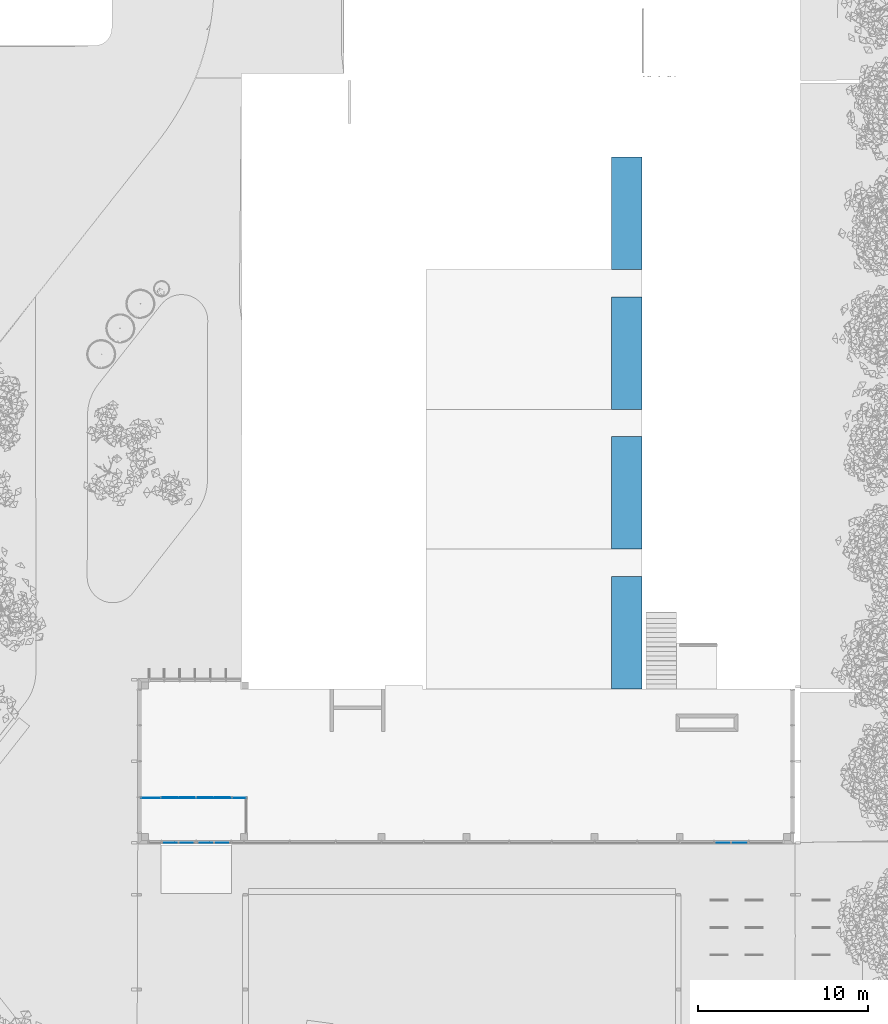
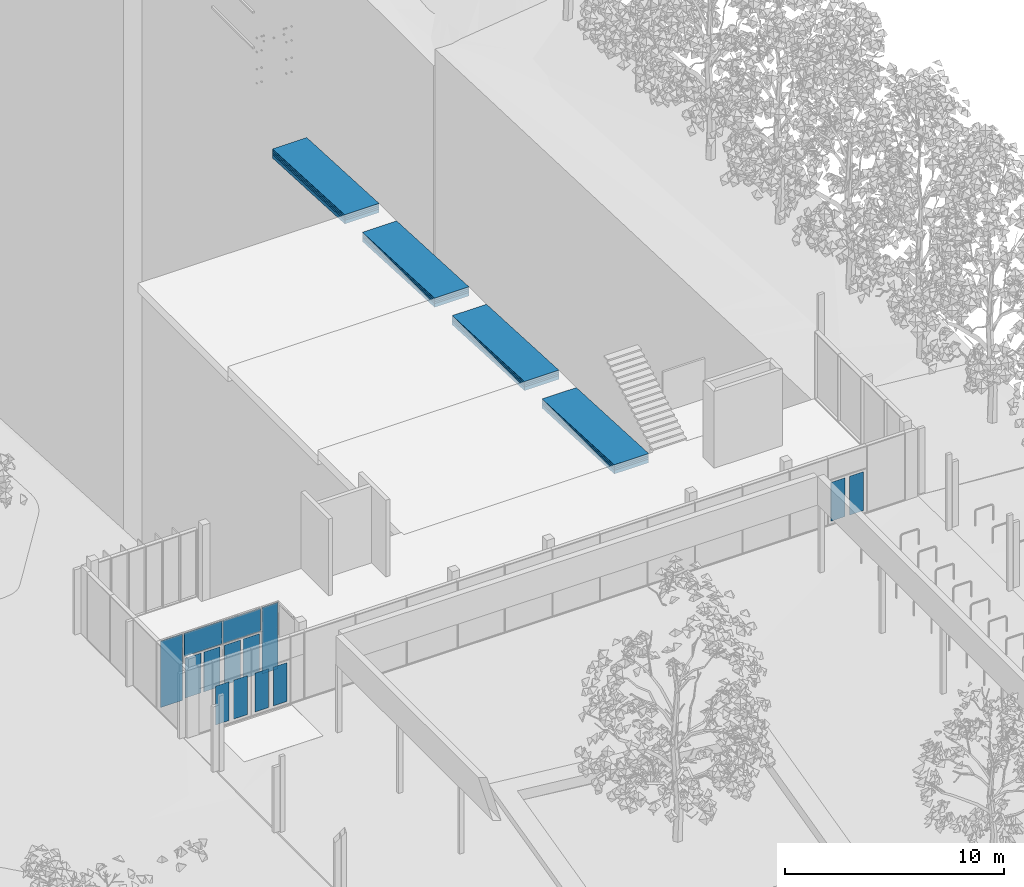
# One storey, part 12 of 69: 33 building element parts, 16 elements without a shape of their own.
"""IFC2X3 building model written with IfcOpenShell, lengths in millimetres."""

import ifcopenshell
import ifcopenshell.guid

model = None  # the IFC model being written
_history = None  # IfcOwnerHistory: only IFC2X3 demands one
_inside = {}  # id of a spatial element -> (the spatial element, [elements in it])
_under = {}  # id of a project, library or spatial element -> (it, [spatial elements below it])
_declared = {}  # id of a project -> (the project, [libraries it declares])
_typed = {}  # id of a type object -> (the type object, [elements of that type])
_made_of = {}  # id of a material, layer set ... -> (it, [elements and type objects made of it])


def new_model(schema):
    """Start an empty IFC model of exactly this schema.

    Asked for "IFC4X3", IfcOpenShell would pick the latest addendum, in which some entities
    have other attributes; the version numbers below select the first issue.
    IFC2X3 requires an IfcOwnerHistory on every rooted entity: one is made here for all.
    """
    global model, _history
    if schema == "IFC4X3":
        model = ifcopenshell.file(schema_version=(4, 3, 0, 0))
    else:
        model = ifcopenshell.file(schema=schema)
    _inside.clear()
    _under.clear()
    _declared.clear()
    _typed.clear()
    _made_of.clear()
    _history = None
    if model.schema == "IFC2X3":
        org = make("IfcOrganization", Name="unknown")
        user = make(
            "IfcPersonAndOrganization",
            ThePerson=make("IfcPerson", FamilyName="unknown"),
            TheOrganization=org,
        )
        app = make(
            "IfcApplication",
            ApplicationDeveloper=org,
            Version="unknown",
            ApplicationFullName="unknown",
            ApplicationIdentifier="unknown",
        )
        _history = make(
            "IfcOwnerHistory",
            OwningUser=user,
            OwningApplication=app,
            ChangeAction="ADDED",
            CreationDate=0,
        )
    return model


def make(cls, **values):
    """One entity of the class cls with the attributes given. An attribute that is None is left unset."""
    return model.create_entity(
        cls, **{name: value for name, value in values.items() if value is not None}
    )


def entity(cls, *values):
    """Any entity or typed value of the class cls, its attributes in the order of the schema. None: left unset."""
    e = model.create_entity(cls)
    for i, value in enumerate(values):
        if value is not None:
            e[i] = value
    return e


def rooted(cls, **values):
    """An entity with a GlobalId (a new one), such as an element, a storey or a relation."""
    return make(cls, GlobalId=ifcopenshell.guid.new(), OwnerHistory=_history, **values)


def si_unit(unit_type, name, prefix=None):
    """IfcSIUnit, for example si_unit("LENGTHUNIT", "METRE", prefix="MILLI")."""
    return make("IfcSIUnit", UnitType=unit_type, Prefix=prefix, Name=name)


def converted_unit(unit_type, name, factor, base, dimensions=None, offset=None):
    """IfcConversionBasedUnit, such as the inch: factor (a typed value) times the base unit."""
    return make(
        "IfcConversionBasedUnit"
        if offset is None
        else "IfcConversionBasedUnitWithOffset",
        ConversionOffset=offset,
        Dimensions=None
        if dimensions is None
        else entity("IfcDimensionalExponents", *dimensions),
        UnitType=unit_type,
        Name=name,
        ConversionFactor=make(
            "IfcMeasureWithUnit", ValueComponent=factor, UnitComponent=base
        ),
    )


def derived_unit(unit_type, elements):
    """IfcDerivedUnit: a product of units, each with its exponent."""
    return make(
        "IfcDerivedUnit",
        Elements=[
            make("IfcDerivedUnitElement", Unit=unit, Exponent=power)
            for unit, power in elements
        ],
        UnitType=unit_type,
    )


def money_unit(currency):
    """IfcMonetaryUnit."""
    return make("IfcMonetaryUnit", Currency=currency)


def assignment(units):
    """IfcUnitAssignment: the units of a project."""
    return None if units is None else make("IfcUnitAssignment", Units=units)


def point(xyz):
    """IfcCartesianPoint."""
    return None if xyz is None else make("IfcCartesianPoint", Coordinates=xyz)


def direction(xyz):
    """IfcDirection."""
    return None if xyz is None else make("IfcDirection", DirectionRatios=xyz)


def frame(location, z_axis=None, x_axis=None):
    """IfcAxis2Placement3D, a coordinate frame: its origin and axes. An axis left out is left unset."""
    return make(
        "IfcAxis2Placement3D",
        Location=point(location),
        Axis=direction(z_axis),
        RefDirection=direction(x_axis),
    )


def origin_with_axes():
    """The frame at (0, 0, 0) with the z axis (0, 0, 1) and the x axis (1, 0, 0) written out."""
    return frame((0.0, 0.0, 0.0), z_axis=(0.0, 0.0, 1.0), x_axis=(1.0, 0.0, 0.0))


def place(relative_to, where):
    """IfcLocalPlacement: puts the frame where relative to a parent placement (None: the world)."""
    return make(
        "IfcLocalPlacement", PlacementRelTo=relative_to, RelativePlacement=where
    )


def context(
    kind, dimensions, precision=None, world=None, true_north=None, identifier=None
):
    """IfcGeometricRepresentationContext, for example the 3D "Model" context."""
    return make(
        "IfcGeometricRepresentationContext",
        ContextIdentifier=identifier,
        ContextType=kind,
        CoordinateSpaceDimension=dimensions,
        Precision=precision,
        WorldCoordinateSystem=world,
        TrueNorth=true_north,
    )


def subcontext(parent, identifier, kind, view, scale=None):
    """IfcGeometricRepresentationSubContext, for example "Body" below "Model"."""
    return make(
        "IfcGeometricRepresentationSubContext",
        ContextIdentifier=identifier,
        ContextType=kind,
        ParentContext=parent,
        TargetScale=scale,
        TargetView=view,
    )


def project(units=None, contexts=None):
    """IfcProject with its units and contexts."""
    return rooted(
        "IfcProject",
        Name="project",
        RepresentationContexts=contexts,
        UnitsInContext=assignment(units),
    )


def spatial(cls, under=None, at=None, **own):
    """A site, building, storey or space (cls), placed at a placement, below another one or the project."""
    s = rooted(cls, ObjectPlacement=at, **own)
    if under is not None:
        _under.setdefault(under.id(), (under, []))[1].append(s)
    return s


def polyline(points):
    """IfcPolyline through the points."""
    return make("IfcPolyline", Points=[point(p) for p in points])


def outline(outer, holes=None, kind="AREA"):
    """IfcArbitraryClosedProfileDef: a profile drawn as a closed curve; with holes, ...WithVoids."""
    if holes is None:
        return make("IfcArbitraryClosedProfileDef", ProfileType=kind, OuterCurve=outer)
    return make(
        "IfcArbitraryProfileDefWithVoids",
        ProfileType=kind,
        OuterCurve=outer,
        InnerCurves=holes,
    )


def extrude(swept, where, along, depth):
    """IfcExtrudedAreaSolid: the profile swept, set in the frame where, extruded along a direction by depth."""
    return make(
        "IfcExtrudedAreaSolid",
        SweptArea=swept,
        Position=where,
        ExtrudedDirection=direction(along),
        Depth=depth,
    )


def faces_of(points, faces, orient=None, outer=None):
    """IfcFace entities. A face is a list of loops; a loop is a list of indices into points, from 0.

    orient and outer hold one flag for each loop. By default every Orientation is true, the
    first loop of a face is its IfcFaceOuterBound and the others are IfcFaceBound.
    """
    made = []
    for i, loops in enumerate(faces):
        bounds = []
        for j, loop in enumerate(loops):
            is_outer = j == 0 if outer is None else outer[i][j]
            bounds.append(
                make(
                    "IfcFaceOuterBound" if is_outer else "IfcFaceBound",
                    Bound=make("IfcPolyLoop", Polygon=[points[k] for k in loop]),
                    Orientation=True if orient is None else orient[i][j],
                )
            )
        made.append(make("IfcFace", Bounds=bounds))
    return made


def faceted_brep(points, faces, orient=None, outer=None, voids=None):
    """IfcFacetedBrep: a solid bounded by flat faces; with voids (closed shells), ...WithVoids."""
    shared = [point(p) for p in points]
    hull = make("IfcClosedShell", CfsFaces=faces_of(shared, faces, orient, outer))
    if voids is None:
        return make("IfcFacetedBrep", Outer=hull)
    return make(
        "IfcFacetedBrepWithVoids",
        Outer=hull,
        Voids=[
            make(cls, CfsFaces=faces_of(shared, fs, o, b)) for cls, fs, o, b in voids
        ],
    )


def shape(context_of_items, identifier, shape_type, items):
    """IfcShapeRepresentation: the items that make up one representation, for example the "Body"."""
    return make(
        "IfcShapeRepresentation",
        ContextOfItems=context_of_items,
        RepresentationIdentifier=identifier,
        RepresentationType=shape_type,
        Items=items,
    )


def material(Name=None, Category=None):
    """IfcMaterial."""
    return make("IfcMaterial", Name=Name, Category=Category)


def made_of(thing, what):
    """Note that an element or type object is made of a material, layer set ...; save() writes the relation."""
    if what is not None:
        _made_of.setdefault(what.id(), (what, []))[1].append(thing)
    return thing


def type_object(cls, material=None, **own):
    """A type object (cls), such as IfcWallType, which elements share."""
    return made_of(rooted(cls, **own), material)


def element(
    cls,
    number,
    at=None,
    inside=None,
    cuts=None,
    type_object=None,
    material=None,
    context=None,
    identifier="Body",
    shape_type=None,
    held_by="IfcProductDefinitionShape",
    body=None,
    shapes=None,
    **own,
):
    """One element of the class cls, such as IfcWall. Its Tag is "e" and its number.

    at: its placement. inside: the storey or other place that contains it. cuts: it is an
    opening in that element (IfcRelVoidsElement). A single representation is given by context,
    identifier, shape_type and body (its items); several are given by shapes. held_by: the class
    of the entity that holds the representations. save() writes the other relations.
    """
    e = rooted(cls, Tag="e%d" % number, ObjectPlacement=at, **own)
    if body is not None:
        shapes = [shape(context, identifier, shape_type, body)]
    if shapes is not None:
        e.Representation = make(held_by, Representations=shapes)
    if inside is not None:
        _inside.setdefault(inside.id(), (inside, []))[1].append(e)
    if cuts is not None:
        rooted(
            "IfcRelVoidsElement", RelatingBuildingElement=cuts, RelatedOpeningElement=e
        )
    if type_object is not None:
        _typed.setdefault(type_object.id(), (type_object, []))[1].append(e)
    return made_of(e, material)


def aggregate(whole, parts):
    """IfcRelAggregates: a whole, such as a stair, and the parts it consists of."""
    return rooted("IfcRelAggregates", RelatingObject=whole, RelatedObjects=parts)


def save(model, path):
    """Write the relations noted so far, then the file.

    IfcRelAggregates (storeys below a building ...), IfcRelContainedInSpatialStructure (elements
    in a storey), IfcRelDefinesByType, IfcRelAssociatesMaterial and IfcRelDeclares: one each for
    every whole, place, type object, material and project.
    """
    for whole, parts in _under.values():
        aggregate(whole, parts)
    for where, things in _inside.values():
        rooted(
            "IfcRelContainedInSpatialStructure",
            RelatedElements=things,
            RelatingStructure=where,
        )
    for kind, things in _typed.values():
        rooted("IfcRelDefinesByType", RelatedObjects=things, RelatingType=kind)
    for what, things in _made_of.values():
        rooted("IfcRelAssociatesMaterial", RelatedObjects=things, RelatingMaterial=what)
    for by, libraries in _declared.values():
        rooted("IfcRelDeclares", RelatingContext=by, RelatedDefinitions=libraries)
    model.write(path)


model = new_model("IFC2X3")

# Units and contexts
model_context = context("Model", 3, precision=0.01, world=origin_with_axes(), true_north=direction((0.0, 1.0)))
body_context = subcontext(model_context, "Body", "Model", "MODEL_VIEW")
ifc_project = project(units=[si_unit("LENGTHUNIT", "METRE", prefix="MILLI"), si_unit("AREAUNIT", "SQUARE_METRE"), si_unit("VOLUMEUNIT", "CUBIC_METRE"), converted_unit("PLANEANGLEUNIT", "DEGREE", entity("IfcPlaneAngleMeasure", 0.0174532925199), si_unit("PLANEANGLEUNIT", "RADIAN"), dimensions=[0, 0, 0, 0, 0, 0, 0]), si_unit("SOLIDANGLEUNIT", "STERADIAN"), money_unit("EUR"), converted_unit("TIMEUNIT", "Year", entity("IfcTimeMeasure", 31556926.0), si_unit("TIMEUNIT", "SECOND"), dimensions=[0, 0, 1, 0, 0, 0, 0]), si_unit("MASSUNIT", "GRAM", prefix="KILO"), si_unit("THERMODYNAMICTEMPERATUREUNIT", "DEGREE_CELSIUS"), si_unit("LUMINOUSINTENSITYUNIT", "LUMEN"), si_unit("ENERGYUNIT", "JOULE", prefix="MEGA"), derived_unit("THERMALCONDUCTANCEUNIT", [(si_unit("POWERUNIT", "WATT"), 1), (si_unit("LENGTHUNIT", "METRE"), -1), (si_unit("THERMODYNAMICTEMPERATUREUNIT", "KELVIN"), -1)]), derived_unit("SPECIFICHEATCAPACITYUNIT", [(si_unit("ENERGYUNIT", "JOULE"), 1), (si_unit("MASSUNIT", "GRAM", prefix="KILO"), -1), (si_unit("THERMODYNAMICTEMPERATUREUNIT", "KELVIN"), -1)]), derived_unit("MASSDENSITYUNIT", [(si_unit("MASSUNIT", "GRAM", prefix="KILO"), 1), (si_unit("VOLUMEUNIT", "CUBIC_METRE"), -1)])], contexts=[model_context])

# Site, building, storey
site_placement = place(None, origin_with_axes())
site = spatial("IfcSite", under=ifc_project, at=site_placement, Name="Puškini 31, Narva", CompositionType="ELEMENT")
building_placement = place(site_placement, origin_with_axes())
building = spatial("IfcBuilding", under=site, at=building_placement, Name="Narva Riigigümnaasium", CompositionType="ELEMENT")
storey_placement = place(building_placement, origin_with_axes())
storey = spatial("IfcBuildingStorey", under=building, at=storey_placement, Name="1.korrus 0.00", CompositionType="ELEMENT", Elevation=0.0)

# Ramp, building element parts
ramp_1_placement = place(storey_placement, frame((43699.9999985, 167199.999936, -840.637102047), z_axis=(0.0, 0.0, 1.0), x_axis=(1.0, 0.0, 0.0)))
ramp_1 = element("IfcRamp", 1, at=ramp_1_placement, inside=storey, Name="Pandus", ShapeType="NOTDEFINED")
ifc_material_1 = material(Name="VKK-03_Kruus")
building_element_part_1_placement = place(ramp_1_placement, origin_with_axes())
building_element_part_1 = element("IfcBuildingElementPart", 2, at=building_element_part_1_placement, material=ifc_material_1, Name="VKK-03_Kruus", context=body_context, shape_type="SweptSolid", body=[
    extrude(outline(polyline([(-10.0, 6608.24491481), (-10.0, 0.0), (1800.00001112, 0.0), (1800.00001112, 6608.24491481), (-10.0, 6608.24491481)])), frame((0.0, 0.0, 0.0), z_axis=(0.0, 0.0499376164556, 0.998752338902), x_axis=(1.0, 0.0, 0.0)), (0.0, -0.0499376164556, 0.998752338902), 200.24984394),
])
ifc_material_2 = material(Name="SOJ-04_Soojustus - Mineraal Kõva")
building_element_part_2_placement = place(ramp_1_placement, origin_with_axes())
building_element_part_2 = element("IfcBuildingElementPart", 3, at=building_element_part_2_placement, material=ifc_material_2, Name="SOJ-04_Soojustus - Mineraal Kõva", context=body_context, shape_type="SweptSolid", body=[
    extrude(outline(polyline([(-10.0, 6608.24491481), (-10.0, 0.0), (1800.00001112, 0.0), (1800.00001112, 6608.24491481), (-10.0, 6608.24491481)])), frame((0.0, 0.0, 200.24984394), z_axis=(0.0, 0.0499376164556, 0.998752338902), x_axis=(1.0, 0.0, 0.0)), (0.0, -0.0499376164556, 0.998752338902), 100.12492197),
])
building_element_part_3_placement = place(ramp_1_placement, origin_with_axes())
building_element_part_3 = element("IfcBuildingElementPart", 4, at=building_element_part_3_placement, material=ifc_material_2, Name="SOJ-04_Soojustus - Mineraal Kõva", context=body_context, shape_type="SweptSolid", body=[
    extrude(outline(polyline([(-10.0, 6608.24491481), (-10.0, 0.0), (1800.00001112, 0.0), (1800.00001112, 6608.24491481), (-10.0, 6608.24491481)])), frame((0.0, 0.0, 300.37476591), z_axis=(0.0, 0.0499376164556, 0.998752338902), x_axis=(1.0, 0.0, 0.0)), (0.0, -0.0499376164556, 0.998752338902), 100.12492197),
])
ifc_material_3 = material(Name="KON-04_Betoon - Konstuktsioon")
building_element_part_4_placement = place(ramp_1_placement, origin_with_axes())
building_element_part_4 = element("IfcBuildingElementPart", 5, at=building_element_part_4_placement, material=ifc_material_3, Name="KON-04_Betoon - Konstuktsioon", context=body_context, shape_type="SweptSolid", body=[
    extrude(outline(polyline([(-10.0, 6608.24491481), (-10.0, 0.0), (1800.00001112, 0.0), (1800.00001112, 6608.24491481), (-10.0, 6608.24491481)])), frame((0.0, 0.0, 400.49968788), z_axis=(0.0, 0.0499376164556, 0.998752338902), x_axis=(1.0, 0.0, 0.0)), (0.0, -0.0499376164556, 0.998752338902), 100.12492197),
])
ifc_material_4 = material(Name="Salto-põrandakate")
building_element_part_5_placement = place(ramp_1_placement, origin_with_axes())
building_element_part_5 = element("IfcBuildingElementPart", 6, at=building_element_part_5_placement, material=ifc_material_4, Name="Salto-põrandakate", context=body_context, shape_type="SweptSolid", body=[
    extrude(outline(polyline([(-10.0, 6608.24491481), (-10.0, 0.0), (1800.00001112, 0.0), (1800.00001112, 6608.24491481), (-10.0, 6608.24491481)])), frame((0.0, 0.0, 500.62460985), z_axis=(0.0, 0.0499376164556, 0.998752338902), x_axis=(1.0, 0.0, 0.0)), (0.0, -0.0499376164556, 0.998752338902), 10.012492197),
])
aggregate(ramp_1, [building_element_part_1, building_element_part_2, building_element_part_3, building_element_part_4, building_element_part_5])

ramp_2_placement = place(storey_placement, frame((43699.9999987, 175400.0, -1170.63710206), z_axis=(0.0, 0.0, 1.0), x_axis=(1.0, 0.0, 0.0)))
ramp_2 = element("IfcRamp", 7, at=ramp_2_placement, inside=storey, Name="Pandus", ShapeType="NOTDEFINED")
building_element_part_6_placement = place(ramp_2_placement, origin_with_axes())
building_element_part_6 = element("IfcBuildingElementPart", 8, at=building_element_part_6_placement, material=ifc_material_1, Name="VKK-03_Kruus", context=body_context, shape_type="SweptSolid", body=[
    extrude(outline(polyline([(1799.99999984, 0.0), (1799.99999984, 6608.24485025), (-10.0, 6608.24485025), (-10.0, 0.0), (1799.99999984, 0.0)])), frame((0.0, 0.0, 0.0), z_axis=(0.0, 0.0499376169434, 0.998752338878), x_axis=(1.0, 0.0, 0.0)), (0.0, -0.0499376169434, 0.998752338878), 200.249843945),
])
building_element_part_7_placement = place(ramp_2_placement, origin_with_axes())
building_element_part_7 = element("IfcBuildingElementPart", 9, at=building_element_part_7_placement, material=ifc_material_2, Name="SOJ-04_Soojustus - Mineraal Kõva", context=body_context, shape_type="SweptSolid", body=[
    extrude(outline(polyline([(1799.99999984, 0.0), (1799.99999984, 6608.24485025), (-10.0, 6608.24485025), (-10.0, 0.0), (1799.99999984, 0.0)])), frame((0.0, 0.0, 200.249843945), z_axis=(0.0, 0.0499376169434, 0.998752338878), x_axis=(1.0, 0.0, 0.0)), (0.0, -0.0499376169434, 0.998752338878), 100.124921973),
])
building_element_part_8_placement = place(ramp_2_placement, origin_with_axes())
building_element_part_8 = element("IfcBuildingElementPart", 10, at=building_element_part_8_placement, material=ifc_material_2, Name="SOJ-04_Soojustus - Mineraal Kõva", context=body_context, shape_type="SweptSolid", body=[
    extrude(outline(polyline([(1799.99999984, 0.0), (1799.99999984, 6608.24485025), (-10.0, 6608.24485025), (-10.0, 0.0), (1799.99999984, 0.0)])), frame((0.0, 0.0, 300.374765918), z_axis=(0.0, 0.0499376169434, 0.998752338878), x_axis=(1.0, 0.0, 0.0)), (0.0, -0.0499376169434, 0.998752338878), 100.124921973),
])
building_element_part_9_placement = place(ramp_2_placement, origin_with_axes())
building_element_part_9 = element("IfcBuildingElementPart", 11, at=building_element_part_9_placement, material=ifc_material_3, Name="KON-04_Betoon - Konstuktsioon", context=body_context, shape_type="SweptSolid", body=[
    extrude(outline(polyline([(1799.99999984, 0.0), (1799.99999984, 6608.24485025), (-10.0, 6608.24485025), (-10.0, 0.0), (1799.99999984, 0.0)])), frame((0.0, 0.0, 400.49968789), z_axis=(0.0, 0.0499376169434, 0.998752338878), x_axis=(1.0, 0.0, 0.0)), (0.0, -0.0499376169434, 0.998752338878), 100.124921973),
])
building_element_part_10_placement = place(ramp_2_placement, origin_with_axes())
building_element_part_10 = element("IfcBuildingElementPart", 12, at=building_element_part_10_placement, material=ifc_material_4, Name="Salto-põrandakate", context=body_context, shape_type="SweptSolid", body=[
    extrude(outline(polyline([(1799.99999984, 0.0), (1799.99999984, 6608.24485025), (-10.0, 6608.24485025), (-10.0, 0.0), (1799.99999984, 0.0)])), frame((0.0, 0.0, 500.624609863), z_axis=(0.0, 0.0499376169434, 0.998752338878), x_axis=(1.0, 0.0, 0.0)), (0.0, -0.0499376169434, 0.998752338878), 10.0124921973),
])
aggregate(ramp_2, [building_element_part_6, building_element_part_7, building_element_part_8, building_element_part_9, building_element_part_10])

# Curtain wall, plates, building element parts, doors
curtain_wall_type = type_object("IfcCurtainWallType", Name="Curtain Wall Type", PredefinedType="NOTDEFINED")
curtain_wall_1_placement = place(storey_placement, frame((18229.9603698, 152620.000001, -0.397158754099), z_axis=(0.0, 0.0, 1.0), x_axis=(1.0, 0.0, 0.0)))
curtain_wall_1 = element("IfcCurtainWall", 13, at=curtain_wall_1_placement, inside=storey, type_object=curtain_wall_type, Name="G-KLF-01-1")
plate_type_1 = type_object("IfcPlateType", Name="Siseklaasfassaad - Klaas 1251 x 1289 x 10", PredefinedType="CURTAIN_PANEL")
plate_1_placement = place(curtain_wall_1_placement, frame((0.0, 0.0, 3080.19857705), z_axis=(0.0, 0.0, 1.0), x_axis=(1.0, 0.0, 0.0)))
plate_1 = element("IfcPlate", 14, at=plate_1_placement, type_object=plate_type_1, Name="G-SKLF-01-klaas", ObjectType="CURTAIN_PANEL")
ifc_material_5 = material(Name="VKR-05_Klaas")
building_element_part_11_placement = place(plate_1_placement, origin_with_axes())
building_element_part_11 = element("IfcBuildingElementPart", 15, at=building_element_part_11_placement, material=ifc_material_5, Name="VKR-05_Klaas", context=body_context, shape_type="Brep", body=[
    faceted_brep([(-899.947747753, -17.0, 649.616177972), (-899.947747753, -22.0, 649.616177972), (1083.72325402, -22.0, 649.616177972), (1083.72325402, -17.0, 649.616177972), (-899.947747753, -17.0, -639.016156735), (-899.947747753, -22.0, -639.016156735), (1083.72325402, -22.0, -639.016156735), (1083.72325402, -17.0, -639.016156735)], [[[0, 1, 2, 3]], [[4, 5, 1, 0]], [[1, 5, 6, 2]], [[3, 2, 6, 7]], [[0, 3, 7, 4]], [[7, 6, 5, 4]]]),
    faceted_brep([(-899.947747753, -28.0, 649.616177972), (-899.947747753, -33.0, 649.616177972), (1083.72325402, -33.0, 649.616177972), (1083.72325402, -28.0, 649.616177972), (-899.947747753, -28.0, -639.016156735), (-899.947747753, -33.0, -639.016156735), (1083.72325402, -33.0, -639.016156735), (1083.72325402, -28.0, -639.016156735)], [[[0, 1, 2, 3]], [[4, 5, 1, 0]], [[1, 5, 6, 2]], [[3, 2, 6, 7]], [[0, 3, 7, 4]], [[7, 6, 5, 4]]]),
])
ifc_material_6 = material(Name="VKR-06_Õhkvahe")
building_element_part_12_placement = place(plate_1_placement, origin_with_axes())
building_element_part_12 = element("IfcBuildingElementPart", 16, at=building_element_part_12_placement, material=ifc_material_6, Name="VKR-06_Õhkvahe", context=body_context, shape_type="Brep", body=[
    faceted_brep([(-899.947747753, -22.0, 649.616177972), (-899.947747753, -28.0, 649.616177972), (1083.72325402, -28.0, 649.616177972), (1083.72325402, -22.0, 649.616177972), (-899.947747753, -22.0, -639.016156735), (-899.947747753, -28.0, -639.016156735), (1083.72325402, -28.0, -639.016156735), (1083.72325402, -22.0, -639.016156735)], [[[0, 1, 2, 3]], [[4, 5, 1, 0]], [[1, 5, 6, 2]], [[3, 2, 6, 7]], [[0, 3, 7, 4]], [[7, 6, 5, 4]]]),
])
aggregate(plate_1, [building_element_part_11, building_element_part_12])
plate_type_2 = type_object("IfcPlateType", Name="1123 x 1330 x 0", PredefinedType="CURTAIN_PANEL")
plate_2_placement = place(curtain_wall_1_placement, frame((-1737.07313897, 0.0, 1786.79904754), z_axis=(0.0, 0.0, 1.0), x_axis=(1.0, 0.0, 0.0)))
plate_2 = element("IfcPlate", 17, at=plate_2_placement, type_object=plate_type_2, Name="G-SKLF-01-klaas", ObjectType="CURTAIN_PANEL")
building_element_part_13_placement = place(plate_2_placement, origin_with_axes())
building_element_part_13 = element("IfcBuildingElementPart", 18, at=building_element_part_13_placement, material=ifc_material_5, Name="VKR-05_Klaas", context=body_context, shape_type="Brep", body=[
    faceted_brep([(-403.304828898, -17.0, 1943.01570771), (-403.304828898, -22.0, 1943.01570771), (754.760625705, -22.0, 1943.01570771), (754.760625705, -17.0, 1943.01570771), (-403.304828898, -17.0, -1756.21668309), (-403.304828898, -22.0, -1756.21668309), (754.760625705, -22.0, -1756.21668309), (754.760625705, -17.0, -1756.21668309)], [[[0, 1, 2, 3]], [[4, 5, 1, 0]], [[1, 5, 6, 2]], [[3, 2, 6, 7]], [[0, 3, 7, 4]], [[7, 6, 5, 4]]]),
    faceted_brep([(-403.304828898, -28.0, 1943.01570771), (-403.304828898, -33.0, 1943.01570771), (754.760625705, -33.0, 1943.01570771), (754.760625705, -28.0, 1943.01570771), (-403.304828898, -28.0, -1756.21668309), (-403.304828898, -33.0, -1756.21668309), (754.760625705, -33.0, -1756.21668309), (754.760625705, -28.0, -1756.21668309)], [[[0, 1, 2, 3]], [[4, 5, 1, 0]], [[1, 5, 6, 2]], [[3, 2, 6, 7]], [[0, 3, 7, 4]], [[7, 6, 5, 4]]]),
])
building_element_part_14_placement = place(plate_2_placement, origin_with_axes())
building_element_part_14 = element("IfcBuildingElementPart", 19, at=building_element_part_14_placement, material=ifc_material_6, Name="VKR-06_Õhkvahe", context=body_context, shape_type="Brep", body=[
    faceted_brep([(-403.304828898, -22.0, 1943.01570771), (-403.304828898, -28.0, 1943.01570771), (754.760625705, -28.0, 1943.01570771), (754.760625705, -22.0, 1943.01570771), (-403.304828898, -22.0, -1756.21668309), (-403.304828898, -28.0, -1756.21668309), (754.760625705, -28.0, -1756.21668309), (754.760625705, -22.0, -1756.21668309)], [[[0, 1, 2, 3]], [[4, 5, 1, 0]], [[1, 5, 6, 2]], [[3, 2, 6, 7]], [[0, 3, 7, 4]], [[7, 6, 5, 4]]]),
])
aggregate(plate_2, [building_element_part_13, building_element_part_14])
plate_type_3 = type_object("IfcPlateType", Name="Siseklaasfassaad - Klaas 834 x 1330 x 10", PredefinedType="CURTAIN_PANEL")
plate_3_placement = place(curtain_wall_1_placement, frame((3611.56508581, 0.0, 2053.46571803), z_axis=(0.0, 0.0, 1.0), x_axis=(1.0, 0.0, 0.0)))
plate_3 = element("IfcPlate", 20, at=plate_3_placement, type_object=plate_type_3, Name="G-SKLF-01-klaas", ObjectType="CURTAIN_PANEL")
building_element_part_15_placement = place(plate_3_placement, origin_with_axes())
building_element_part_15 = element("IfcBuildingElementPart", 21, at=building_element_part_15_placement, material=ifc_material_5, Name="VKR-05_Klaas", context=body_context, shape_type="Brep", body=[
    faceted_brep([(-411.659388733, -17.0, 1676.34903722), (-411.659388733, -22.0, 1676.34903722), (422.259417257, -22.0, 1676.34903722), (422.259417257, -17.0, 1676.34903722), (-411.659388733, -17.0, -2022.88335358), (-411.659388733, -22.0, -2022.88335358), (422.259417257, -22.0, -2022.88335358), (422.259417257, -17.0, -2022.88335358)], [[[0, 1, 2, 3]], [[4, 5, 1, 0]], [[1, 5, 6, 2]], [[3, 2, 6, 7]], [[0, 3, 7, 4]], [[7, 6, 5, 4]]]),
    faceted_brep([(-411.659388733, -28.0, 1676.34903722), (-411.659388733, -33.0, 1676.34903722), (422.259417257, -33.0, 1676.34903722), (422.259417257, -28.0, 1676.34903722), (-411.659388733, -28.0, -2022.88335358), (-411.659388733, -33.0, -2022.88335358), (422.259417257, -33.0, -2022.88335358), (422.259417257, -28.0, -2022.88335358)], [[[0, 1, 2, 3]], [[4, 5, 1, 0]], [[1, 5, 6, 2]], [[3, 2, 6, 7]], [[0, 3, 7, 4]], [[7, 6, 5, 4]]]),
])
building_element_part_16_placement = place(plate_3_placement, origin_with_axes())
building_element_part_16 = element("IfcBuildingElementPart", 22, at=building_element_part_16_placement, material=ifc_material_6, Name="VKR-06_Õhkvahe", context=body_context, shape_type="Brep", body=[
    faceted_brep([(-411.659388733, -22.0, 1676.34903722), (-411.659388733, -28.0, 1676.34903722), (422.259417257, -28.0, 1676.34903722), (422.259417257, -22.0, 1676.34903722), (-411.659388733, -22.0, -2022.88335358), (-411.659388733, -28.0, -2022.88335358), (422.259417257, -28.0, -2022.88335358), (422.259417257, -22.0, -2022.88335358)], [[[0, 1, 2, 3]], [[4, 5, 1, 0]], [[1, 5, 6, 2]], [[3, 2, 6, 7]], [[0, 3, 7, 4]], [[7, 6, 5, 4]]]),
])
aggregate(plate_3, [building_element_part_15, building_element_part_16])
door_style_1 = type_object("IfcDoorStyle", Name="1251 x 2339 x 20", ConstructionType="NOTDEFINED", OperationType="NOTDEFINED", ParameterTakesPrecedence=False, Sizeable=False)
door_1_placement = place(curtain_wall_1_placement, frame((8.86529960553e-07, 0.0, 1200.00001719), z_axis=(0.0, 0.0, 1.0), x_axis=(1.0, 0.0, 0.0)))
door_1 = element("IfcDoor", 23, at=door_1_placement, type_object=door_style_1, Name="G-KLF-01-1-U1", ObjectType="DOOR")
building_element_part_17_placement = place(door_1_placement, origin_with_axes())
building_element_part_17 = element("IfcBuildingElementPart", 24, at=building_element_part_17_placement, material=ifc_material_5, Name="VKR-05_Klaas", context=body_context, shape_type="Brep", body=[
    faceted_brep([(993.723267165, 6.00000000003, -1110.00001691), (993.723267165, -9.99999999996, -1110.00001691), (141.296566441, -9.99999999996, -1110.00001691), (141.296566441, 6.00000000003, -1110.00001691), (993.723267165, 6.00000000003, 1110.00001719), (993.723267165, -9.99999999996, 1110.00001719), (141.296566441, -9.99999999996, 1110.00001719), (141.296566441, 6.00000000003, 1110.00001719)], [[[0, 1, 2, 3]], [[4, 5, 1, 0]], [[1, 5, 6, 2]], [[3, 2, 6, 7]], [[0, 3, 7, 4]], [[7, 6, 5, 4]]]),
    faceted_brep([(1.296566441, 6.00000000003, -1110.00001691), (1.296566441, -9.99999999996, -1110.00001691), (-851.130134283, -9.99999999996, -1110.00001691), (-851.130134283, 6.00000000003, -1110.00001691), (1.296566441, 6.00000000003, 1110.00001719), (1.296566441, -9.99999999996, 1110.00001719), (-851.130134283, -9.99999999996, 1110.00001719), (-851.130134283, 6.00000000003, 1110.00001719)], [[[0, 1, 2, 3]], [[4, 5, 1, 0]], [[1, 5, 6, 2]], [[3, 2, 6, 7]], [[0, 3, 7, 4]], [[7, 6, 5, 4]]]),
])
aggregate(door_1, [building_element_part_17])
door_style_2 = type_object("IfcDoorStyle", Name="1235 x 2339 x 20", ConstructionType="NOTDEFINED", OperationType="NOTDEFINED", ParameterTakesPrecedence=False, Sizeable=False)
door_2_placement = place(curtain_wall_1_placement, frame((2049.95114668, 0.0, 1200.00001719), z_axis=(0.0, 0.0, 1.0), x_axis=(1.0, 0.0, 0.0)))
door_2 = element("IfcDoor", 25, at=door_2_placement, type_object=door_style_2, Name="G-KLF-01-1-U2", ObjectType="DOOR")
building_element_part_18_placement = place(door_2_placement, origin_with_axes())
building_element_part_18 = element("IfcBuildingElementPart", 26, at=building_element_part_18_placement, material=ifc_material_5, Name="VKR-05_Klaas", context=body_context, shape_type="Brep", body=[
    faceted_brep([(1018.77215742, 6.00000000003, -1110.00001691), (1018.77215742, -9.99999999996, -1110.00001691), (166.272142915, -9.99999999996, -1110.00001691), (166.272142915, 6.00000000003, -1110.00001691), (1018.77215742, 6.00000000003, 1110.00001719), (1018.77215742, -9.99999999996, 1110.00001719), (166.272142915, -9.99999999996, 1110.00001719), (166.272142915, 6.00000000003, 1110.00001719)], [[[0, 1, 2, 3]], [[4, 5, 1, 0]], [[1, 5, 6, 2]], [[3, 2, 6, 7]], [[0, 3, 7, 4]], [[7, 6, 5, 4]]]),
    faceted_brep([(26.2721429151, 6.00000000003, -1110.00001691), (26.2721429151, -9.99999999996, -1110.00001691), (-826.227871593, -9.99999999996, -1110.00001691), (-826.227871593, 6.00000000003, -1110.00001691), (26.2721429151, 6.00000000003, 1110.00001719), (26.2721429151, -9.99999999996, 1110.00001719), (-826.227871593, -9.99999999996, 1110.00001719), (-826.227871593, 6.00000000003, 1110.00001719)], [[[0, 1, 2, 3]], [[4, 5, 1, 0]], [[1, 5, 6, 2]], [[3, 2, 6, 7]], [[0, 3, 7, 4]], [[7, 6, 5, 4]]]),
])
aggregate(door_2, [building_element_part_18])
plate_type_4 = type_object("IfcPlateType", Name="Siseklaasfassaad - Klaas 1235 x 1289 x 10", PredefinedType="CURTAIN_PANEL")
plate_4_placement = place(curtain_wall_1_placement, frame((2049.95114586, 0.0, 3080.19857705), z_axis=(0.0, 0.0, 1.0), x_axis=(1.0, 0.0, 0.0)))
plate_4 = element("IfcPlate", 27, at=plate_4_placement, type_object=plate_type_4, Name="G-SKLF-01-klaas", ObjectType="CURTAIN_PANEL")
aggregate(curtain_wall_1, [door_1, door_2, plate_1, plate_2, plate_3, plate_4])
building_element_part_19_placement = place(plate_4_placement, origin_with_axes())
building_element_part_19 = element("IfcBuildingElementPart", 28, at=building_element_part_19_placement, material=ifc_material_5, Name="VKR-05_Klaas", context=body_context, shape_type="Brep", body=[
    faceted_brep([(-916.227881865, -17.0, 649.616183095), (-916.227881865, -22.0, 649.616183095), (1067.58975884, -22.0, 649.616183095), (1067.58975884, -17.0, 649.616183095), (-916.227881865, -17.0, -639.016143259), (-916.227881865, -22.0, -639.016143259), (1067.58975884, -22.0, -639.016143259), (1067.58975884, -17.0, -639.016143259)], [[[0, 1, 2, 3]], [[4, 5, 1, 0]], [[1, 5, 6, 2]], [[3, 2, 6, 7]], [[0, 3, 7, 4]], [[7, 6, 5, 4]]]),
    faceted_brep([(-916.227881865, -28.0, 649.616183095), (-916.227881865, -33.0, 649.616183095), (1067.58975884, -33.0, 649.616183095), (1067.58975884, -28.0, 649.616183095), (-916.227881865, -28.0, -639.016143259), (-916.227881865, -33.0, -639.016143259), (1067.58975884, -33.0, -639.016143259), (1067.58975884, -28.0, -639.016143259)], [[[0, 1, 2, 3]], [[4, 5, 1, 0]], [[1, 5, 6, 2]], [[3, 2, 6, 7]], [[0, 3, 7, 4]], [[7, 6, 5, 4]]]),
])
building_element_part_20_placement = place(plate_4_placement, origin_with_axes())
building_element_part_20 = element("IfcBuildingElementPart", 29, at=building_element_part_20_placement, material=ifc_material_6, Name="VKR-06_Õhkvahe", context=body_context, shape_type="Brep", body=[
    faceted_brep([(-916.227881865, -22.0, 649.616183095), (-916.227881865, -28.0, 649.616183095), (1067.58975884, -28.0, 649.616183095), (1067.58975884, -22.0, 649.616183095), (-916.227881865, -22.0, -639.016143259), (-916.227881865, -28.0, -639.016143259), (1067.58975884, -28.0, -639.016143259), (1067.58975884, -22.0, -639.016143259)], [[[0, 1, 2, 3]], [[4, 5, 1, 0]], [[1, 5, 6, 2]], [[3, 2, 6, 7]], [[0, 3, 7, 4]], [[7, 6, 5, 4]]]),
])
aggregate(plate_4, [building_element_part_19, building_element_part_20])

# Ramp, building element parts
ramp_3_placement = place(storey_placement, frame((43699.9999987, 183600.0, -1500.63710206), z_axis=(0.0, 0.0, 1.0), x_axis=(1.0, 0.0, 0.0)))
ramp_3 = element("IfcRamp", 30, at=ramp_3_placement, inside=storey, Name="Pandus", ShapeType="NOTDEFINED")
building_element_part_21_placement = place(ramp_3_placement, origin_with_axes())
building_element_part_21 = element("IfcBuildingElementPart", 31, at=building_element_part_21_placement, material=ifc_material_1, Name="VKK-03_Kruus", context=body_context, shape_type="SweptSolid", body=[
    extrude(outline(polyline([(1799.99999984, 0.0), (1799.99999984, 6608.24485025), (-10.0, 6608.24485025), (-10.0, 0.0), (1799.99999984, 0.0)])), frame((0.0, 0.0, 0.0), z_axis=(0.0, 0.0499376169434, 0.998752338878), x_axis=(1.0, 0.0, 0.0)), (0.0, -0.0499376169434, 0.998752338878), 200.249843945),
])
building_element_part_22_placement = place(ramp_3_placement, origin_with_axes())
building_element_part_22 = element("IfcBuildingElementPart", 32, at=building_element_part_22_placement, material=ifc_material_2, Name="SOJ-04_Soojustus - Mineraal Kõva", context=body_context, shape_type="SweptSolid", body=[
    extrude(outline(polyline([(1799.99999984, 0.0), (1799.99999984, 6608.24485025), (-10.0, 6608.24485025), (-10.0, 0.0), (1799.99999984, 0.0)])), frame((0.0, 0.0, 200.249843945), z_axis=(0.0, 0.0499376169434, 0.998752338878), x_axis=(1.0, 0.0, 0.0)), (0.0, -0.0499376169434, 0.998752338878), 100.124921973),
])
building_element_part_23_placement = place(ramp_3_placement, origin_with_axes())
building_element_part_23 = element("IfcBuildingElementPart", 33, at=building_element_part_23_placement, material=ifc_material_2, Name="SOJ-04_Soojustus - Mineraal Kõva", context=body_context, shape_type="SweptSolid", body=[
    extrude(outline(polyline([(1799.99999984, 0.0), (1799.99999984, 6608.24485025), (-10.0, 6608.24485025), (-10.0, 0.0), (1799.99999984, 0.0)])), frame((0.0, 0.0, 300.374765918), z_axis=(0.0, 0.0499376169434, 0.998752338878), x_axis=(1.0, 0.0, 0.0)), (0.0, -0.0499376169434, 0.998752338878), 100.124921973),
])
building_element_part_24_placement = place(ramp_3_placement, origin_with_axes())
building_element_part_24 = element("IfcBuildingElementPart", 34, at=building_element_part_24_placement, material=ifc_material_3, Name="KON-04_Betoon - Konstuktsioon", context=body_context, shape_type="SweptSolid", body=[
    extrude(outline(polyline([(1799.99999984, 0.0), (1799.99999984, 6608.24485025), (-10.0, 6608.24485025), (-10.0, 0.0), (1799.99999984, 0.0)])), frame((0.0, 0.0, 400.49968789), z_axis=(0.0, 0.0499376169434, 0.998752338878), x_axis=(1.0, 0.0, 0.0)), (0.0, -0.0499376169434, 0.998752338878), 100.124921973),
])
building_element_part_25_placement = place(ramp_3_placement, origin_with_axes())
building_element_part_25 = element("IfcBuildingElementPart", 35, at=building_element_part_25_placement, material=ifc_material_4, Name="Salto-põrandakate", context=body_context, shape_type="SweptSolid", body=[
    extrude(outline(polyline([(1799.99999984, 0.0), (1799.99999984, 6608.24485025), (-10.0, 6608.24485025), (-10.0, 0.0), (1799.99999984, 0.0)])), frame((0.0, 0.0, 500.624609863), z_axis=(0.0, 0.0499376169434, 0.998752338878), x_axis=(1.0, 0.0, 0.0)), (0.0, -0.0499376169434, 0.998752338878), 10.0124921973),
])
aggregate(ramp_3, [building_element_part_21, building_element_part_22, building_element_part_23, building_element_part_24, building_element_part_25])

ramp_4_placement = place(storey_placement, frame((43699.9999982, 158999.999997, -510.635597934), z_axis=(0.0, 0.0, 1.0), x_axis=(1.0, 0.0, 0.0)))
ramp_4 = element("IfcRamp", 36, at=ramp_4_placement, inside=storey, Name="Pandus", ShapeType="NOTDEFINED")
building_element_part_26_placement = place(ramp_4_placement, origin_with_axes())
building_element_part_26 = element("IfcBuildingElementPart", 37, at=building_element_part_26_placement, material=ifc_material_1, Name="VKK-03_Kruus", context=body_context, shape_type="SweptSolid", body=[
    extrude(outline(polyline([(-9.99999974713, 6608.22538826), (-9.99999974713, 0.0), (1800.00000114, 0.0), (1800.00000114, 6608.22538826), (-9.99999974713, 6608.22538826)])), frame((0.0, 0.0, 0.0), z_axis=(0.0, 0.0498787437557, 0.998755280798), x_axis=(1.0, 0.0, 0.0)), (0.0, -0.0498787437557, 0.998755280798), 200.249254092),
])
building_element_part_27_placement = place(ramp_4_placement, origin_with_axes())
building_element_part_27 = element("IfcBuildingElementPart", 38, at=building_element_part_27_placement, material=ifc_material_2, Name="SOJ-04_Soojustus - Mineraal Kõva", context=body_context, shape_type="SweptSolid", body=[
    extrude(outline(polyline([(-9.99999974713, 6608.22538826), (-9.99999974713, 0.0), (1800.00000114, 0.0), (1800.00000114, 6608.22538826), (-9.99999974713, 6608.22538826)])), frame((0.0, 0.0, 200.249254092), z_axis=(0.0, 0.0498787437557, 0.998755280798), x_axis=(1.0, 0.0, 0.0)), (0.0, -0.0498787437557, 0.998755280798), 100.124627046),
])
building_element_part_28_placement = place(ramp_4_placement, origin_with_axes())
building_element_part_28 = element("IfcBuildingElementPart", 39, at=building_element_part_28_placement, material=ifc_material_2, Name="SOJ-04_Soojustus - Mineraal Kõva", context=body_context, shape_type="SweptSolid", body=[
    extrude(outline(polyline([(-9.99999974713, 6608.22538826), (-9.99999974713, 0.0), (1800.00000114, 0.0), (1800.00000114, 6608.22538826), (-9.99999974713, 6608.22538826)])), frame((0.0, 0.0, 300.373881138), z_axis=(0.0, 0.0498787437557, 0.998755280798), x_axis=(1.0, 0.0, 0.0)), (0.0, -0.0498787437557, 0.998755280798), 100.124627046),
])
building_element_part_29_placement = place(ramp_4_placement, origin_with_axes())
building_element_part_29 = element("IfcBuildingElementPart", 40, at=building_element_part_29_placement, material=ifc_material_3, Name="KON-04_Betoon - Konstuktsioon", context=body_context, shape_type="SweptSolid", body=[
    extrude(outline(polyline([(-9.99999974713, 6608.22538826), (-9.99999974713, 0.0), (1800.00000114, 0.0), (1800.00000114, 6608.22538826), (-9.99999974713, 6608.22538826)])), frame((0.0, 0.0, 400.498508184), z_axis=(0.0, 0.0498787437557, 0.998755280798), x_axis=(1.0, 0.0, 0.0)), (0.0, -0.0498787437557, 0.998755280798), 100.124627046),
])
building_element_part_30_placement = place(ramp_4_placement, origin_with_axes())
building_element_part_30 = element("IfcBuildingElementPart", 41, at=building_element_part_30_placement, material=ifc_material_4, Name="Salto-põrandakate", context=body_context, shape_type="SweptSolid", body=[
    extrude(outline(polyline([(-9.99999974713, 6608.22538826), (-9.99999974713, 0.0), (1800.00000114, 0.0), (1800.00000114, 6608.22538826), (-9.99999974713, 6608.22538826)])), frame((0.0, 0.0, 500.62313523), z_axis=(0.0, 0.0498787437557, 0.998755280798), x_axis=(1.0, 0.0, 0.0)), (0.0, -0.0498787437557, 0.998755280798), 10.0124627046),
])
aggregate(ramp_4, [building_element_part_26, building_element_part_27, building_element_part_28, building_element_part_29, building_element_part_30])

# Curtain wall, door, building element part
curtain_wall_2_placement = place(storey_placement, frame((52576.1999988, 149970.00001, 0.0), z_axis=(0.0, 0.0, 1.0), x_axis=(1.0, 0.0, 0.0)))
curtain_wall_2 = element("IfcCurtainWall", 42, at=curtain_wall_2_placement, inside=storey, type_object=curtain_wall_type, Name="G-KLF-01c")
door_style_3 = type_object("IfcDoorStyle", Name="2023 x 2455 x 20", ConstructionType="NOTDEFINED", OperationType="NOTDEFINED", ParameterTakesPrecedence=False, Sizeable=False)
door_3_placement = place(curtain_wall_2_placement, frame((-1838.70000175, 0.0, 1249.99998785), z_axis=(0.0, 0.0, 1.0), x_axis=(1.0, 0.0, 0.0)))
door_3 = element("IfcDoor", 43, at=door_3_placement, type_object=door_style_3, Name="G-KLF-01-VU-01", ObjectType="DOOR")
aggregate(curtain_wall_2, [door_3])
building_element_part_31_placement = place(door_3_placement, origin_with_axes())
building_element_part_31 = element("IfcBuildingElementPart", 44, at=building_element_part_31_placement, material=ifc_material_5, Name="VKR-05_Klaas", context=body_context, shape_type="Brep", body=[
    faceted_brep([(856.500001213, 6.0, -1079.99998834), (856.500001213, -9.99999999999, -1079.99998834), (119.999998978, -9.99999999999, -1079.99998834), (119.999998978, 6.0, -1079.99998834), (856.500001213, 6.0, 1084.99998809), (856.500001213, -9.99999999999, 1084.99998809), (119.999998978, -9.99999999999, 1084.99998809), (119.999998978, 6.0, 1084.99998809)], [[[0, 1, 2, 3]], [[4, 5, 1, 0]], [[1, 5, 6, 2]], [[3, 2, 6, 7]], [[0, 3, 7, 4]], [[7, 6, 5, 4]]]),
    faceted_brep([(-120.000001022, 6.0, -1079.99998834), (-120.000001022, -9.99999999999, -1079.99998834), (-856.500003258, -9.99999999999, -1079.99998834), (-856.500003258, 6.0, -1079.99998834), (-120.000001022, 6.0, 1084.99998809), (-120.000001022, -9.99999999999, 1084.99998809), (-856.500003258, -9.99999999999, 1084.99998809), (-856.500003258, 6.0, 1084.99998809)], [[[0, 1, 2, 3]], [[4, 5, 1, 0]], [[1, 5, 6, 2]], [[3, 2, 6, 7]], [[0, 3, 7, 4]], [[7, 6, 5, 4]]]),
])
aggregate(door_3, [building_element_part_31])

# Curtain wall, doors, building element parts
curtain_wall_3_placement = place(storey_placement, frame((18232.2449236, 149970.00001, 0.0), z_axis=(0.0, 0.0, 1.0), x_axis=(1.0, 0.0, 0.0)))
curtain_wall_3 = element("IfcCurtainWall", 45, at=curtain_wall_3_placement, inside=storey, type_object=curtain_wall_type, Name="G-KLF-01a")
door_style_4 = type_object("IfcDoorStyle", Name="1259 x 2455 x 20", ConstructionType="NOTDEFINED", OperationType="NOTDEFINED", ParameterTakesPrecedence=False, Sizeable=False)
door_4_placement = place(curtain_wall_3_placement, frame((0.0, 0.0, 1249.99997309), z_axis=(0.0, 0.0, 1.0), x_axis=(1.0, 0.0, 0.0)))
door_4 = element("IfcDoor", 46, at=door_4_placement, type_object=door_style_4, Name="G-KLF-01-VU-01", ObjectType="DOOR")
building_element_part_32_placement = place(door_4_placement, origin_with_axes())
building_element_part_32 = element("IfcBuildingElementPart", 47, at=building_element_part_32_placement, material=ifc_material_5, Name="VKR-05_Klaas", context=body_context, shape_type="Brep", body=[
    faceted_brep([(906.438739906, 6.00000000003, -1079.99997358), (906.438739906, -9.99999999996, -1079.99997358), (183.93874573, -9.99999999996, -1079.99997358), (183.93874573, 6.00000000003, -1079.99997358), (906.438739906, 6.00000000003, 1085.00000285), (906.438739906, -9.99999999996, 1085.00000285), (183.93874573, -9.99999999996, 1085.00000285), (183.93874573, 6.00000000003, 1085.00000285)], [[[0, 1, 2, 3]], [[4, 5, 1, 0]], [[1, 5, 6, 2]], [[3, 2, 6, 7]], [[0, 3, 7, 4]], [[7, 6, 5, 4]]]),
    faceted_brep([(-56.06125427, 6.00000000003, -1079.99997358), (-56.06125427, -9.99999999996, -1079.99997358), (-778.561248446, -9.99999999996, -1079.99997358), (-778.561248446, 6.00000000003, -1079.99997358), (-56.06125427, 6.00000000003, 1085.00000285), (-56.06125427, -9.99999999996, 1085.00000285), (-778.561248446, -9.99999999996, 1085.00000285), (-778.561248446, 6.00000000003, 1085.00000285)], [[[0, 1, 2, 3]], [[4, 5, 1, 0]], [[1, 5, 6, 2]], [[3, 2, 6, 7]], [[0, 3, 7, 4]], [[7, 6, 5, 4]]]),
])
aggregate(door_4, [building_element_part_32])
door_style_5 = type_object("IfcDoorStyle", Name="1266 x 2455 x 20", ConstructionType="NOTDEFINED", OperationType="NOTDEFINED", ParameterTakesPrecedence=False, Sizeable=False)
door_5_placement = place(curtain_wall_3_placement, frame((2047.66666498, 0.0, 1249.99998837), z_axis=(0.0, 0.0, 1.0), x_axis=(1.0, 0.0, 0.0)))
door_5 = element("IfcDoor", 48, at=door_5_placement, type_object=door_style_5, Name="G-KLF-01-VU-01", ObjectType="DOOR")
aggregate(curtain_wall_3, [door_4, door_5])
building_element_part_33_placement = place(door_5_placement, origin_with_axes())
building_element_part_33 = element("IfcBuildingElementPart", 49, at=building_element_part_33_placement, material=ifc_material_5, Name="VKR-05_Klaas", context=body_context, shape_type="Brep", body=[
    faceted_brep([(943.772091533, 6.00000000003, -1079.99998862), (943.772091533, -9.99999999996, -1079.99998862), (221.27207411, -9.99999999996, -1079.99998862), (221.27207411, 6.00000000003, -1079.99998862), (943.772091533, 6.00000000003, 1084.99999921), (943.772091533, -9.99999999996, 1084.99999921), (221.27207411, -9.99999999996, 1084.99999921), (221.27207411, 6.00000000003, 1084.99999921)], [[[0, 1, 2, 3]], [[4, 5, 1, 0]], [[1, 5, 6, 2]], [[3, 2, 6, 7]], [[0, 3, 7, 4]], [[7, 6, 5, 4]]]),
    faceted_brep([(-18.7279258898, 6.00000000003, -1079.99998862), (-18.7279258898, -9.99999999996, -1079.99998862), (-741.227943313, -9.99999999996, -1079.99998862), (-741.227943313, 6.00000000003, -1079.99998862), (-18.7279258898, 6.00000000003, 1084.99999921), (-18.7279258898, -9.99999999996, 1084.99999921), (-741.227943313, -9.99999999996, 1084.99999921), (-741.227943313, 6.00000000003, 1084.99999921)], [[[0, 1, 2, 3]], [[4, 5, 1, 0]], [[1, 5, 6, 2]], [[3, 2, 6, 7]], [[0, 3, 7, 4]], [[7, 6, 5, 4]]]),
])
aggregate(door_5, [building_element_part_33])

save(model, "model.ifc")
